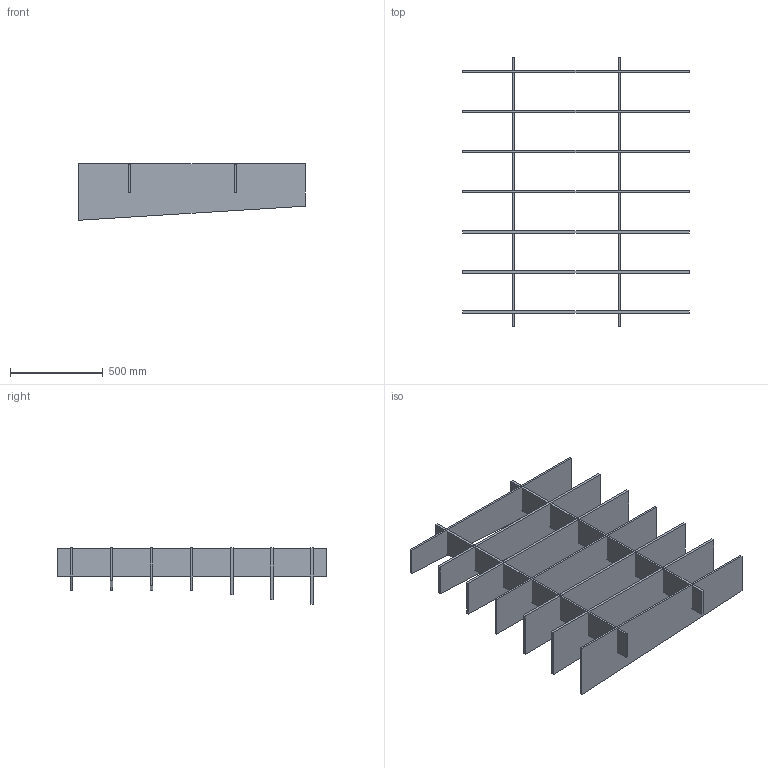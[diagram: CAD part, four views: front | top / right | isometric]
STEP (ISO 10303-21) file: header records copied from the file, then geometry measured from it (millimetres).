
FILE_DESCRIPTION(/* description */ (''),/* implementation_level */ '2;1');
FILE_NAME(/* name */ 'Topo Zig Half Frame Simplified',/* time_stamp */ '2026-04-13T11:45:10-05:00',/* author */ (''),/* organization */ (''),/* preprocessor_version */ 'ST-DEVELOPER v19.2',/* originating_system */ 'Rhino 8.29',/* authorisation */ '');
FILE_SCHEMA (('CONFIG_CONTROL_DESIGN'));
Length unit declared in the file: inch
Products named in the file (1): Document
Bounding box: 1219.2 x 1450.61 x 304.8 mm (x, y, z)
Volume: 30392477.8 mm3; surface area: 5125162.5 mm2
Topology: 9 solids, 9 shells, 54 faces, 108 edges, 72 vertices
Faces by surface type: plane 54
Entity records: 1282 total; most frequent: CARTESIAN_POINT 344, ORIENTED_EDGE 216, EDGE_CURVE 108, B_SPLINE_CURVE_WITH_KNOTS 108, VERTEX_POINT 72, DIRECTION 58, AXIS2_PLACEMENT_3D 56, ADVANCED_FACE 54
